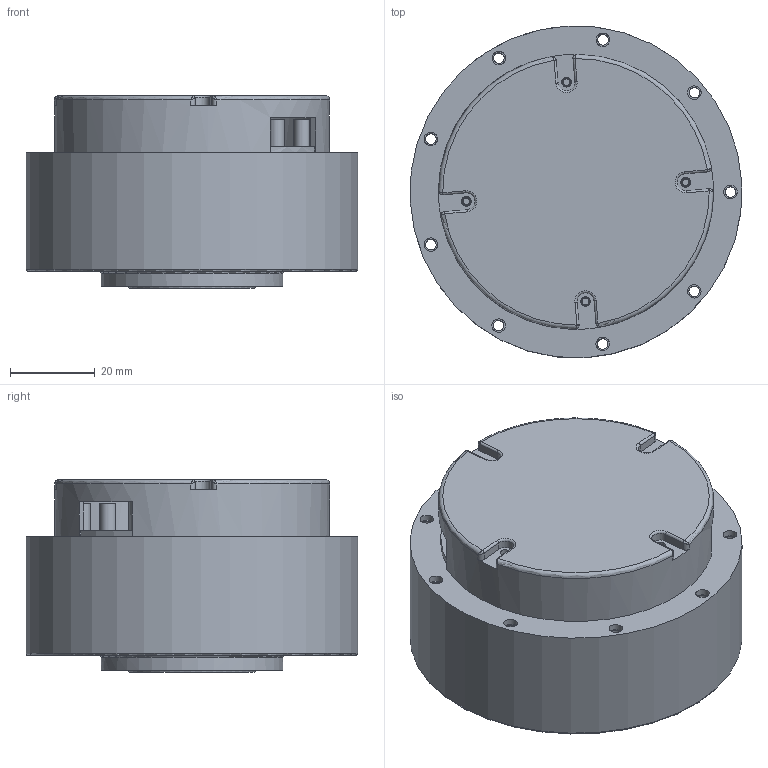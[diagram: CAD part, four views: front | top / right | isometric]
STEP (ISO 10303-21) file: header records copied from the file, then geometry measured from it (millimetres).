
FILE_DESCRIPTION(/* description */ ('STEP AP242 Edition 2','CAx-IF Rec.Pracs.---Representation and Presentation of Product Manufacturing Information (PMI)---4.0---2014-10-13','CAx-IF Rec.Pracs.---3D Tessellated Geometry---0.4---2014-09-14','2;1','CAx-IF Rec.Pracs.---User Defined Attributes---1.5---2016-08-15'),/* implementation_level */ '2;1');
FILE_NAME(/* name */ 'Assy_ForMFG - L_Shldr_Yaw_RS02',/* time_stamp */ '2026-05-15T19:56:54Z',/* author */ (''),/* organization */ (''),/* preprocessor_version */ 'ST-DEVELOPER v20',/* originating_system */ 'ONSHAPE BY PTC INC, 1.215',/* authorisation */ ' ');
FILE_SCHEMA (('AP242_MANAGED_MODEL_BASED_3D_ENGINEERING_MIM_LF { 1 0 10303 442 3 1 4 }'));
Length unit declared in the file: metre
Products named in the file (1): L_Shldr_Yaw_RS02
Bounding box: 78.38 x 78.43 x 45.5 mm (x, y, z)
Volume: 60694 mm3; surface area: 53296.7 mm2
Topology: 1 solids, 4 shells, 454 faces, 1251 edges, 825 vertices
Faces by surface type: cylinder 212, plane 157, cone 59, torus 18, bspline 8
Full cylindrical faces by diameter (mm): 1.6 x8, 2.3 x4, 2.5 x9, 3 x3, 3.2 x9, 3.3 x8, 3.7 x8, 4 x4, 9 x1, 12.5 x1, 30 x1, 37 x2, 38.12 x1, 43 x1, 61 x1, 62 x1, 64 x1, 65 x1, 66 x1, 68.4 x1, 78.5 x1
Entity records: 14324 total; most frequent: CARTESIAN_POINT 3118, DIRECTION 2500, ORIENTED_EDGE 2156, EDGE_CURVE 1078, AXIS2_PLACEMENT_3D 1047, VERTEX_POINT 747, EDGE_LOOP 631, FACE_BOUND 631
